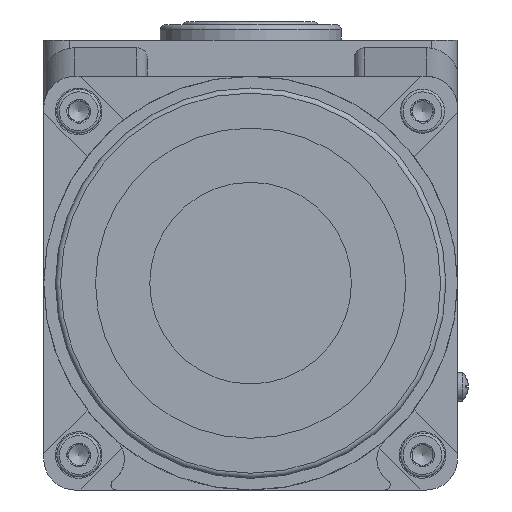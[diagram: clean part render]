
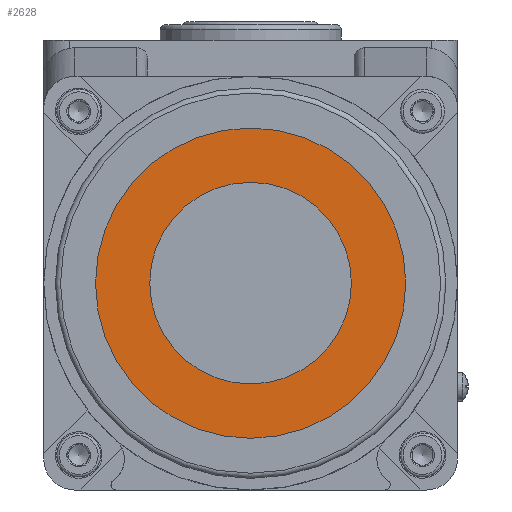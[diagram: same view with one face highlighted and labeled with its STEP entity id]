
A CAD part, front view. The second image highlights one B-rep face of the part: STEP entity #2628.
In plain terms, the highlighted planar face has unit normal (0, -1, 0).
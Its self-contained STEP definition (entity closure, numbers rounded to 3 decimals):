
#685=FACE_BOUND('',#4289,.T.);
#686=FACE_BOUND('',#4290,.T.);
#2628=ADVANCED_FACE('',(#685,#686),#2978,.F.);
#2978=PLANE('',#12625);
#4289=EDGE_LOOP('',(#6899));
#4290=EDGE_LOOP('',(#6900));
#6899=ORIENTED_EDGE('',*,*,#9310,.F.);
#6900=ORIENTED_EDGE('',*,*,#9307,.T.);
#7977=VERTEX_POINT('',#19698);
#7980=VERTEX_POINT('',#19706);
#9307=EDGE_CURVE('',#7977,#7977,#11209,.T.);
#9310=EDGE_CURVE('',#7980,#7980,#11212,.T.);
#11209=CIRCLE('',#12618,19.5);
#11212=CIRCLE('',#12623,30.);
#12618=AXIS2_PLACEMENT_3D('',#19697,#15630,#15631);
#12623=AXIS2_PLACEMENT_3D('',#19705,#15640,#15641);
#12625=AXIS2_PLACEMENT_3D('',#19708,#15644,#15645);
#15630=DIRECTION('',(0.,1.,0.));
#15631=DIRECTION('',(1.,0.,0.));
#15640=DIRECTION('',(0.,1.,0.));
#15641=DIRECTION('',(1.,0.,0.));
#15644=DIRECTION('',(0.,1.,0.));
#15645=DIRECTION('',(-1.,0.,0.));
#19697=CARTESIAN_POINT('',(0.,-165.,-47.));
#19698=CARTESIAN_POINT('',(19.5,-165.,-47.));
#19705=CARTESIAN_POINT('',(0.,-165.,-47.));
#19706=CARTESIAN_POINT('',(30.,-165.,-47.));
#19708=CARTESIAN_POINT('',(0.,-165.,-47.));
